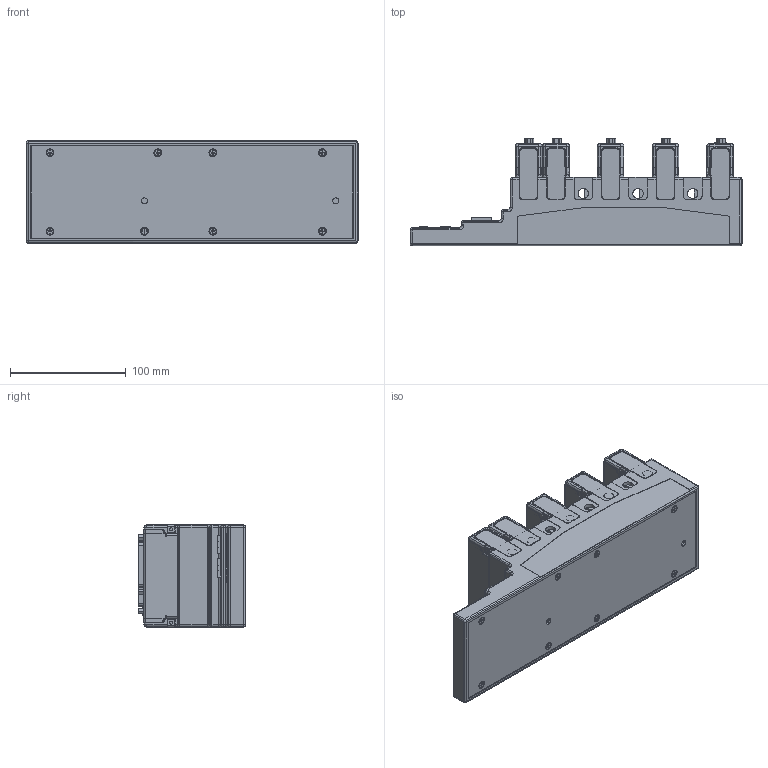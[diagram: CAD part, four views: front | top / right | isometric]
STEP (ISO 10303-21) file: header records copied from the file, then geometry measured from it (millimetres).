
FILE_DESCRIPTION((''),'2;1');
FILE_NAME('C:\Documents and Settings\Owner\Desktop\NI Controller\NI Controller.stp','2008-12-18T21:03:40',('Owner'),(''),'Autodesk Inventor (R) 6.0','Autodesk Inventor (R) 6.0','');
FILE_SCHEMA(('AUTOMOTIVE_DESIGN { 1 0 10303 214 1 1 1 1 }'));
Length unit declared in the file: inch
Products named in the file (43): NI Controller; NI9201; NI9201 Cover; NI9201 Chassis; NI9201 Latch; NI9201 PCB; NI9201 DB-25M; NI9201 DB-15HDF; NI9201 Jack Nut; cRIO-FRC; cRIO-FRC Chassis; cRIO-FRC BackPlate; cRIO-FRC Pad; cRIO-FRC PCB; cRIO-FRC LED; cRIO-FRC Power Connector; cRIO-FRC Switch; cRIO-FRC 9M D-Shell; cRIO-FRC DIP Switch; cRIO-FRC DB-15HDM; cRIO-FRC CAT5; cRIO-FRC Screws; NI9472; NI9472 Cover; NI9472 Chassis; NI9472 Latch; NI9472 PCB; NI9472 DB-25M; NI9472 DB-15HDF; NI9472 LED Cluster; NI9472 Jack Nut; NI9403; NI9403 Cover; NI9403 Chassis; NI9403 Latch; NI9403 PCB; NI9403 DB-37M; NI9403 DB-15HDF; NI9403 Jack Nut
Assembly tree (65 placements, depth 4):
  NI Controller
    NI9201  x2
      NI9201 Cover
      NI9201 Chassis
      NI9201 Latch
      NI9201 PCB
        NI9201 PCB
        NI9201 DB-25M
        NI9201 DB-15HDF
      NI9201 Jack Nut
    cRIO-FRC
      cRIO-FRC Chassis
      cRIO-FRC BackPlate
      cRIO-FRC Pad
      cRIO-FRC PCB
        cRIO-FRC PCB
        cRIO-FRC LED
        cRIO-FRC Power Connector
        cRIO-FRC Switch
        cRIO-FRC 9M D-Shell
        cRIO-FRC DIP Switch
        cRIO-FRC DB-15HDM  x8
        cRIO-FRC CAT5  x2
      cRIO-FRC Screws  x8
    NI9472
      NI9472 Cover
      NI9472 Chassis
      NI9472 Latch  x2
      NI9472 PCB
        NI9472 PCB
        NI9472 DB-25M
        NI9472 DB-15HDF
        NI9472 LED Cluster
      NI9472 Jack Nut  x2
    NI9403  x2
      NI9403 Cover
      NI9403 Chassis
      NI9403 Latch
      NI9403 PCB
        NI9403 PCB
        NI9403 DB-37M
        NI9403 DB-15HDF
      NI9403 Jack Nut
Bounding box: 286.51 x 92.69 x 88.19 mm (x, y, z)
Volume: 633037.2 mm3; surface area: 556353.7 mm2
Topology: 73 solids, 73 shells, 6188 faces, 16742 edges, 10486 vertices
Faces by surface type: cylinder 2900, plane 1863, bspline 802, sphere 355, cone 150, torus 118
Entity records: 119480 total; most frequent: CARTESIAN_POINT 28773, DIRECTION 19584, ORIENTED_EDGE 18408, EDGE_CURVE 9204, AXIS2_PLACEMENT_3D 7305, VERTEX_POINT 5893, VECTOR 4974, LINE 4974
